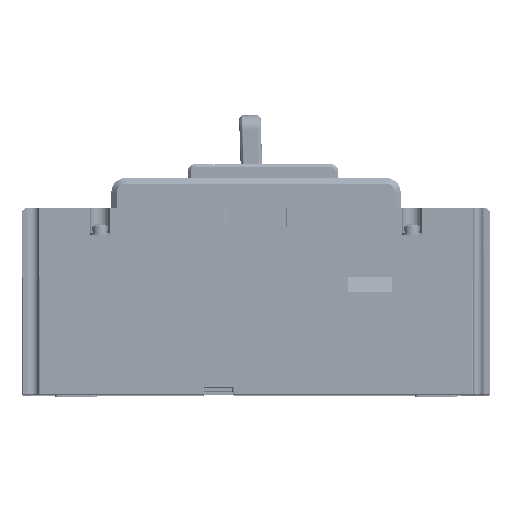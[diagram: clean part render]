
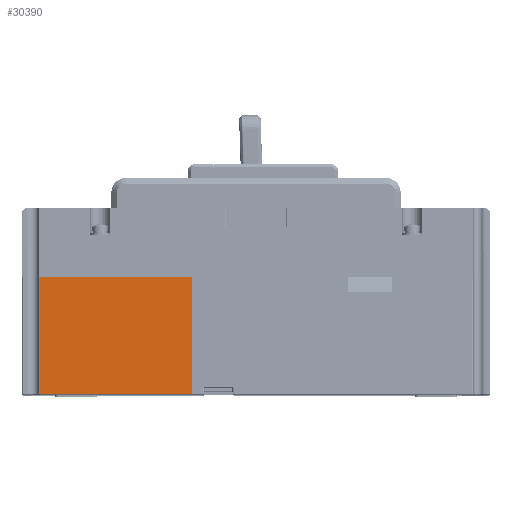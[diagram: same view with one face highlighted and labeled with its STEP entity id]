
A CAD part, top view. The second image highlights one B-rep face of the part: STEP entity #30390.
In plain terms, the highlighted planar face has unit normal (0, 0, 1).
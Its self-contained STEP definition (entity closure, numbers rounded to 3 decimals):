
#3633=DIRECTION('',(-1.,0.,0.));
#3634=VECTOR('',#3633,53.651);
#3635=CARTESIAN_POINT('',(-22.5,8.7,53.5));
#3636=LINE('',#3635,#3634);
#4538=DIRECTION('',(0.,-1.,0.));
#4539=VECTOR('',#4538,41.);
#4540=CARTESIAN_POINT('',(-76.151,8.7,53.5));
#4541=LINE('',#4540,#4539);
#4546=DIRECTION('',(1.,0.,0.));
#4547=VECTOR('',#4546,53.651);
#4548=CARTESIAN_POINT('',(-76.151,-32.3,53.5));
#4549=LINE('',#4548,#4547);
#4564=DIRECTION('',(0.,1.,0.));
#4565=VECTOR('',#4564,41.);
#4566=CARTESIAN_POINT('',(-22.5,-32.3,53.5));
#4567=LINE('',#4566,#4565);
#21081=CARTESIAN_POINT('',(-22.5,8.7,53.5));
#21082=VERTEX_POINT('',#21081);
#21083=CARTESIAN_POINT('',(-76.151,8.7,53.5));
#21084=VERTEX_POINT('',#21083);
#21459=CARTESIAN_POINT('',(-76.151,-32.3,53.5));
#21460=VERTEX_POINT('',#21459);
#21461=CARTESIAN_POINT('',(-22.5,-32.3,53.5));
#21462=VERTEX_POINT('',#21461);
#30377=CARTESIAN_POINT('',(0.,0.,53.5));
#30378=DIRECTION('',(0.,0.,1.));
#30379=DIRECTION('',(1.,0.,0.));
#30380=AXIS2_PLACEMENT_3D('',#30377,#30378,#30379);
#30381=PLANE('',#30380);
#30383=ORIENTED_EDGE('',*,*,#30382,.F.);
#30384=ORIENTED_EDGE('',*,*,#30372,.F.);
#30385=ORIENTED_EDGE('',*,*,#29189,.F.);
#30387=ORIENTED_EDGE('',*,*,#30386,.F.);
#30388=EDGE_LOOP('',(#30383,#30384,#30385,#30387));
#30389=FACE_OUTER_BOUND('',#30388,.F.);
#30390=ADVANCED_FACE('',(#30389),#30381,.T.);
#29189=EDGE_CURVE('',#21082,#21084,#3636,.T.);
#30372=EDGE_CURVE('',#21084,#21460,#4541,.T.);
#30382=EDGE_CURVE('',#21460,#21462,#4549,.T.);
#30386=EDGE_CURVE('',#21462,#21082,#4567,.T.);
